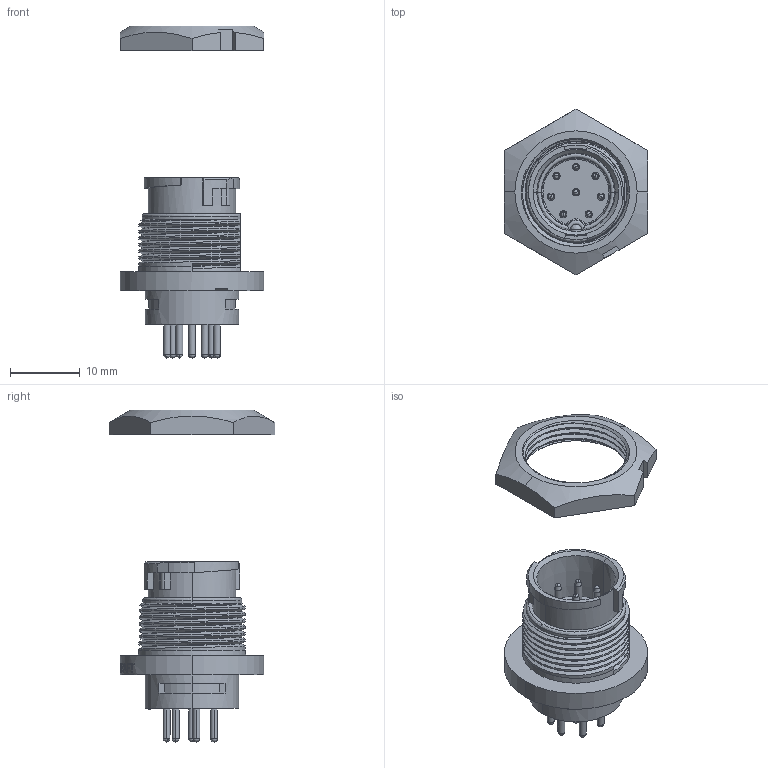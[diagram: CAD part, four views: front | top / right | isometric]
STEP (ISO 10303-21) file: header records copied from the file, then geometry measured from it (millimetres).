
FILE_DESCRIPTION (( 'STEP AP214' ), '1' );
FILE_NAME ('EN3P8MPX.STEP', '2014-07-02T20:37:31', ( '' ), ( '' ), 'SwSTEP 2.0', 'SolidWorks 2014', '' );
FILE_SCHEMA (( 'AUTOMOTIVE_DESIGN' ));
Length unit declared in the file: inch
Products named in the file (1): EN3P8MPX
Bounding box: 20.64 x 23.83 x 47.73 mm (x, y, z)
Volume: 3457.2 mm3; surface area: 3417.6 mm2
Topology: 2 solids, 2 shells, 504 faces, 1342 edges, 859 vertices
Faces by surface type: cylinder 152, plane 151, bspline 151, cone 40, torus 10
Entity records: 33189 total; most frequent: CARTESIAN_POINT 21308, ORIENTED_EDGE 2618, DIRECTION 2034, EDGE_CURVE 1309, VERTEX_POINT 859, AXIS2_PLACEMENT_3D 757, EDGE_LOOP 556, LINE 520
